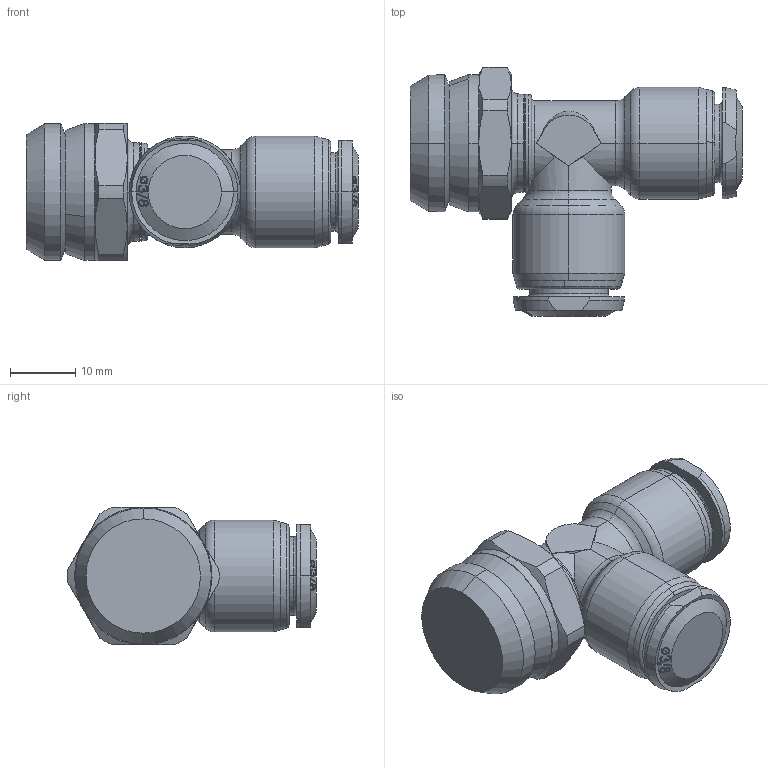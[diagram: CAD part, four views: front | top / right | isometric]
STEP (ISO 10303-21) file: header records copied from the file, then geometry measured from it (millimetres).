
FILE_DESCRIPTION (( 'STEP AP203' ), '1' );
FILE_NAME ('8522300013A.step', '2012-11-05T15:43:52', ( '' ), ( '' ), 'SwSTEP 2.0', 'SolidWorks 2012', '' );
FILE_SCHEMA (( 'CONFIG_CONTROL_DESIGN' ));
Length unit declared in the file: millimetre
Products named in the file (1): 8522300013A
Bounding box: 50.8 x 38.1 x 21.03 mm (x, y, z)
Volume: 15605.9 mm3; surface area: 5119.9 mm2
Topology: 1 solids, 1 shells, 270 faces, 670 edges, 426 vertices
Faces by surface type: bspline 116, cone 64, cylinder 33, plane 33, torus 24
Entity records: 16354 total; most frequent: CARTESIAN_POINT 10922, ORIENTED_EDGE 1340, DIRECTION 724, EDGE_CURVE 670, VERTEX_POINT 426, B_SPLINE_CURVE_WITH_KNOTS 402, AXIS2_PLACEMENT_3D 316, EDGE_LOOP 294
